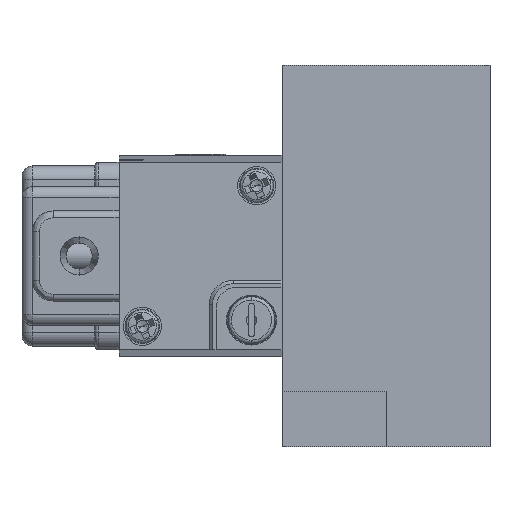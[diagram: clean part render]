
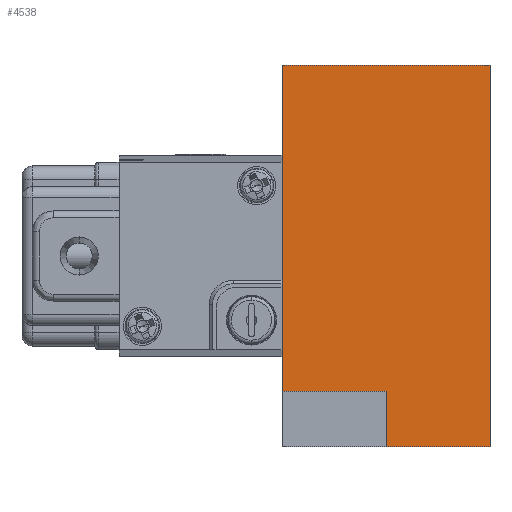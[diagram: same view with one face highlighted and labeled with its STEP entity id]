
A CAD part, left-side view. The second image highlights one B-rep face of the part: STEP entity #4538.
In plain terms, the highlighted planar face has unit normal (-1, 0, 0).
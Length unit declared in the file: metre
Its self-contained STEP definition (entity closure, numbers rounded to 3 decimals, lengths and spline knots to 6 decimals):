
#310 = FACE_OUTER_BOUND ( 'NONE', #7365, .T. ) ;
#1430 = VERTEX_POINT ( 'NONE', #3158 ) ;
#1566 = CARTESIAN_POINT ( 'NONE',  ( -0.034, 0.015, -0.0195 ) ) ;
#1571 = ORIENTED_EDGE ( 'NONE', *, *, #1872, .F. ) ;
#1872 = EDGE_CURVE ( 'NONE', #1430, #10934, #5721, .T. ) ;
#1954 = EDGE_CURVE ( 'NONE', #10934, #4424, #11651, .T. ) ;
#2017 = EDGE_CURVE ( 'NONE', #6055, #1430, #10701, .T. ) ;
#2044 = CARTESIAN_POINT ( 'NONE',  ( -0.034, 0.015, 0.0275 ) ) ;
#2063 = AXIS2_PLACEMENT_3D ( 'NONE', #3145, #3345, #3360 ) ;
#2234 = EDGE_CURVE ( 'NONE', #4560, #6055, #12757, .T. ) ;
#2260 = EDGE_CURVE ( 'NONE', #4560, #12223, #2745, .T. ) ;
#2268 = CARTESIAN_POINT ( 'NONE',  ( -0.034, 0., 0. ) ) ;
#2280 = EDGE_CURVE ( 'NONE', #12223, #4424, #4677, .T. ) ;
#2492 = DIRECTION ( 'NONE',  ( 0., 0., 1. ) ) ;
#2613 = ORIENTED_EDGE ( 'NONE', *, *, #1954, .F. ) ;
#2745 = LINE ( 'NONE', #8641, #7251 ) ;
#3145 = CARTESIAN_POINT ( 'NONE',  ( -0.034, -0.015, 0.0275 ) ) ;
#3158 = CARTESIAN_POINT ( 'NONE',  ( -0.034, 0., -0.0275 ) ) ;
#3328 = PLANE ( 'NONE',  #2063 ) ;
#3345 = DIRECTION ( 'NONE',  ( 1., 0., 0. ) ) ;
#3360 = DIRECTION ( 'NONE',  ( 0., 0., -1. ) ) ;
#3459 = CARTESIAN_POINT ( 'NONE',  ( -0.034, -0.015, 0.0275 ) ) ;
#3946 = CARTESIAN_POINT ( 'NONE',  ( -0.034, 0., -0.0195 ) ) ;
#3958 = DIRECTION ( 'NONE',  ( 0., 1., 0. ) ) ;
#4209 = VECTOR ( 'NONE', #3958, 1. ) ;
#4424 = VERTEX_POINT ( 'NONE', #1566 ) ;
#4474 = DIRECTION ( 'NONE',  ( 0., 1., 0. ) ) ;
#4517 = CARTESIAN_POINT ( 'NONE',  ( -0.034, 0., -0.0275 ) ) ;
#4538 = ADVANCED_FACE ( 'NONE', ( #310 ), #3328, .F. ) ;
#4560 = VERTEX_POINT ( 'NONE', #3459 ) ;
#4677 = LINE ( 'NONE', #8906, #9486 ) ;
#4959 = VECTOR ( 'NONE', #8340, 1. ) ;
#5721 = LINE ( 'NONE', #2268, #10256 ) ;
#6055 = VERTEX_POINT ( 'NONE', #6786 ) ;
#6786 = CARTESIAN_POINT ( 'NONE',  ( -0.034, -0.015, -0.0275 ) ) ;
#7251 = VECTOR ( 'NONE', #8623, 1. ) ;
#7365 = EDGE_LOOP ( 'NONE', ( #2613, #1571, #12236, #9060, #12780, #12830 ) ) ;
#7571 = CARTESIAN_POINT ( 'NONE',  ( -0.034, -0.015, 0. ) ) ;
#8116 = VECTOR ( 'NONE', #4474, 1. ) ;
#8340 = DIRECTION ( 'NONE',  ( 0., 0., -1. ) ) ;
#8623 = DIRECTION ( 'NONE',  ( 0., 1., 0. ) ) ;
#8641 = CARTESIAN_POINT ( 'NONE',  ( -0.034, 0., 0.0275 ) ) ;
#8879 = DIRECTION ( 'NONE',  ( 0., 0., -1. ) ) ;
#8906 = CARTESIAN_POINT ( 'NONE',  ( -0.034, 0.015, 0. ) ) ;
#9060 = ORIENTED_EDGE ( 'NONE', *, *, #2234, .F. ) ;
#9486 = VECTOR ( 'NONE', #8879, 1. ) ;
#10256 = VECTOR ( 'NONE', #2492, 1. ) ;
#10701 = LINE ( 'NONE', #4517, #8116 ) ;
#10934 = VERTEX_POINT ( 'NONE', #11756 ) ;
#11651 = LINE ( 'NONE', #3946, #4209 ) ;
#11756 = CARTESIAN_POINT ( 'NONE',  ( -0.034, 0., -0.0195 ) ) ;
#12223 = VERTEX_POINT ( 'NONE', #2044 ) ;
#12236 = ORIENTED_EDGE ( 'NONE', *, *, #2017, .F. ) ;
#12757 = LINE ( 'NONE', #7571, #4959 ) ;
#12780 = ORIENTED_EDGE ( 'NONE', *, *, #2260, .T. ) ;
#12830 = ORIENTED_EDGE ( 'NONE', *, *, #2280, .T. ) ;
